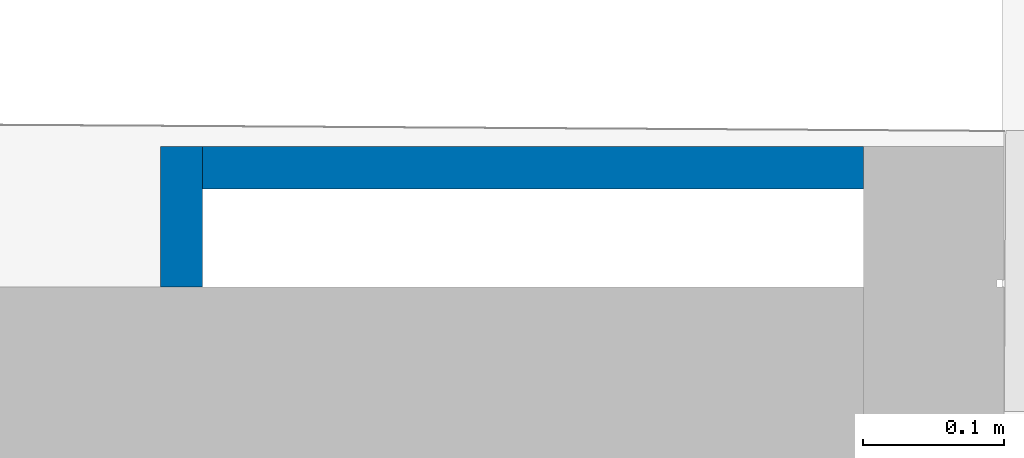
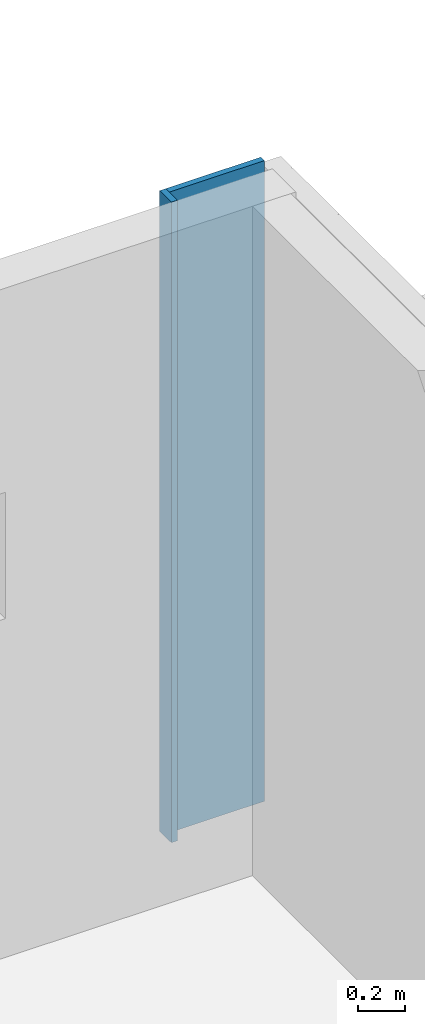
# One storey, part 38 of 77: 2 walls.
"""IFC2X3 building model written with IfcOpenShell, lengths in millimetres."""

import ifcopenshell
import ifcopenshell.guid

model = None  # the IFC model being written
_history = None  # IfcOwnerHistory: only IFC2X3 demands one
_inside = {}  # id of a spatial element -> (the spatial element, [elements in it])
_under = {}  # id of a project, library or spatial element -> (it, [spatial elements below it])
_declared = {}  # id of a project -> (the project, [libraries it declares])
_typed = {}  # id of a type object -> (the type object, [elements of that type])
_made_of = {}  # id of a material, layer set ... -> (it, [elements and type objects made of it])


def new_model(schema):
    """Start an empty IFC model of exactly this schema.

    Asked for "IFC4X3", IfcOpenShell would pick the latest addendum, in which some entities
    have other attributes; the version numbers below select the first issue.
    IFC2X3 requires an IfcOwnerHistory on every rooted entity: one is made here for all.
    """
    global model, _history
    if schema == "IFC4X3":
        model = ifcopenshell.file(schema_version=(4, 3, 0, 0))
    else:
        model = ifcopenshell.file(schema=schema)
    _inside.clear()
    _under.clear()
    _declared.clear()
    _typed.clear()
    _made_of.clear()
    _history = None
    if model.schema == "IFC2X3":
        org = make("IfcOrganization", Name="unknown")
        user = make(
            "IfcPersonAndOrganization",
            ThePerson=make("IfcPerson", FamilyName="unknown"),
            TheOrganization=org,
        )
        app = make(
            "IfcApplication",
            ApplicationDeveloper=org,
            Version="unknown",
            ApplicationFullName="unknown",
            ApplicationIdentifier="unknown",
        )
        _history = make(
            "IfcOwnerHistory",
            OwningUser=user,
            OwningApplication=app,
            ChangeAction="ADDED",
            CreationDate=0,
        )
    return model


def make(cls, **values):
    """One entity of the class cls with the attributes given. An attribute that is None is left unset."""
    return model.create_entity(
        cls, **{name: value for name, value in values.items() if value is not None}
    )


def entity(cls, *values):
    """Any entity or typed value of the class cls, its attributes in the order of the schema. None: left unset."""
    e = model.create_entity(cls)
    for i, value in enumerate(values):
        if value is not None:
            e[i] = value
    return e


def rooted(cls, **values):
    """An entity with a GlobalId (a new one), such as an element, a storey or a relation."""
    return make(cls, GlobalId=ifcopenshell.guid.new(), OwnerHistory=_history, **values)


def si_unit(unit_type, name, prefix=None):
    """IfcSIUnit, for example si_unit("LENGTHUNIT", "METRE", prefix="MILLI")."""
    return make("IfcSIUnit", UnitType=unit_type, Prefix=prefix, Name=name)


def converted_unit(unit_type, name, factor, base, dimensions=None, offset=None):
    """IfcConversionBasedUnit, such as the inch: factor (a typed value) times the base unit."""
    return make(
        "IfcConversionBasedUnit"
        if offset is None
        else "IfcConversionBasedUnitWithOffset",
        ConversionOffset=offset,
        Dimensions=None
        if dimensions is None
        else entity("IfcDimensionalExponents", *dimensions),
        UnitType=unit_type,
        Name=name,
        ConversionFactor=make(
            "IfcMeasureWithUnit", ValueComponent=factor, UnitComponent=base
        ),
    )


def derived_unit(unit_type, elements):
    """IfcDerivedUnit: a product of units, each with its exponent."""
    return make(
        "IfcDerivedUnit",
        Elements=[
            make("IfcDerivedUnitElement", Unit=unit, Exponent=power)
            for unit, power in elements
        ],
        UnitType=unit_type,
    )


def assignment(units):
    """IfcUnitAssignment: the units of a project."""
    return None if units is None else make("IfcUnitAssignment", Units=units)


def point(xyz):
    """IfcCartesianPoint."""
    return None if xyz is None else make("IfcCartesianPoint", Coordinates=xyz)


def direction(xyz):
    """IfcDirection."""
    return None if xyz is None else make("IfcDirection", DirectionRatios=xyz)


def frame(location, z_axis=None, x_axis=None):
    """IfcAxis2Placement3D, a coordinate frame: its origin and axes. An axis left out is left unset."""
    return make(
        "IfcAxis2Placement3D",
        Location=point(location),
        Axis=direction(z_axis),
        RefDirection=direction(x_axis),
    )


def frame_2d(location, x_axis=None):
    """IfcAxis2Placement2D, a coordinate frame in the plane: its origin and x axis."""
    return make(
        "IfcAxis2Placement2D", Location=point(location), RefDirection=direction(x_axis)
    )


def origin():
    """The frame at (0, 0, 0) with its axes left unset."""
    return frame((0.0, 0.0, 0.0))


def place(relative_to, where):
    """IfcLocalPlacement: puts the frame where relative to a parent placement (None: the world)."""
    return make(
        "IfcLocalPlacement", PlacementRelTo=relative_to, RelativePlacement=where
    )


def context(
    kind, dimensions, precision=None, world=None, true_north=None, identifier=None
):
    """IfcGeometricRepresentationContext, for example the 3D "Model" context."""
    return make(
        "IfcGeometricRepresentationContext",
        ContextIdentifier=identifier,
        ContextType=kind,
        CoordinateSpaceDimension=dimensions,
        Precision=precision,
        WorldCoordinateSystem=world,
        TrueNorth=true_north,
    )


def subcontext(parent, identifier, kind, view, scale=None):
    """IfcGeometricRepresentationSubContext, for example "Body" below "Model"."""
    return make(
        "IfcGeometricRepresentationSubContext",
        ContextIdentifier=identifier,
        ContextType=kind,
        ParentContext=parent,
        TargetScale=scale,
        TargetView=view,
    )


def project(units=None, contexts=None):
    """IfcProject with its units and contexts."""
    return rooted(
        "IfcProject",
        Name="project",
        RepresentationContexts=contexts,
        UnitsInContext=assignment(units),
    )


def spatial(cls, under=None, at=None, **own):
    """A site, building, storey or space (cls), placed at a placement, below another one or the project."""
    s = rooted(cls, ObjectPlacement=at, **own)
    if under is not None:
        _under.setdefault(under.id(), (under, []))[1].append(s)
    return s


def profile(cls, at=None, kind="AREA", **sizes):
    """A parametric profile (cls). Its sizes go by their IFC names, for example OverallWidth=200.0."""
    return make(cls, ProfileType=kind, Position=at, **sizes)


def rectangle(**sizes):
    """IfcRectangleProfileDef."""
    return profile("IfcRectangleProfileDef", **sizes)


def extrude(swept, where, along, depth):
    """IfcExtrudedAreaSolid: the profile swept, set in the frame where, extruded along a direction by depth."""
    return make(
        "IfcExtrudedAreaSolid",
        SweptArea=swept,
        Position=where,
        ExtrudedDirection=direction(along),
        Depth=depth,
    )


def shape(context_of_items, identifier, shape_type, items):
    """IfcShapeRepresentation: the items that make up one representation, for example the "Body"."""
    return make(
        "IfcShapeRepresentation",
        ContextOfItems=context_of_items,
        RepresentationIdentifier=identifier,
        RepresentationType=shape_type,
        Items=items,
    )


def material(Name=None, Category=None):
    """IfcMaterial."""
    return make("IfcMaterial", Name=Name, Category=Category)


def layer(
    of_material, thickness, ventilated=None, Name=None, Category=None, Priority=None
):
    """IfcMaterialLayer: one layer of a wall or slab, of a material (None: an air gap)."""
    return make(
        "IfcMaterialLayer",
        Material=of_material,
        LayerThickness=thickness,
        IsVentilated=ventilated,
        Name=Name,
        Category=Category,
        Priority=Priority,
    )


def layer_set(layers, Name=None):
    """IfcMaterialLayerSet."""
    return make("IfcMaterialLayerSet", MaterialLayers=layers, LayerSetName=Name)


def layer_usage(for_layer_set, set_direction, sense, offset, extent=None):
    """IfcMaterialLayerSetUsage: how a layer set lies in its element."""
    return make(
        "IfcMaterialLayerSetUsage",
        ForLayerSet=for_layer_set,
        LayerSetDirection=set_direction,
        DirectionSense=sense,
        OffsetFromReferenceLine=offset,
        ReferenceExtent=extent,
    )


def made_of(thing, what):
    """Note that an element or type object is made of a material, layer set ...; save() writes the relation."""
    if what is not None:
        _made_of.setdefault(what.id(), (what, []))[1].append(thing)
    return thing


def type_object(cls, material=None, **own):
    """A type object (cls), such as IfcWallType, which elements share."""
    return made_of(rooted(cls, **own), material)


def element(
    cls,
    number,
    at=None,
    inside=None,
    cuts=None,
    type_object=None,
    material=None,
    context=None,
    identifier="Body",
    shape_type=None,
    held_by="IfcProductDefinitionShape",
    body=None,
    shapes=None,
    **own,
):
    """One element of the class cls, such as IfcWall. Its Tag is "e" and its number.

    at: its placement. inside: the storey or other place that contains it. cuts: it is an
    opening in that element (IfcRelVoidsElement). A single representation is given by context,
    identifier, shape_type and body (its items); several are given by shapes. held_by: the class
    of the entity that holds the representations. save() writes the other relations.
    """
    e = rooted(cls, Tag="e%d" % number, ObjectPlacement=at, **own)
    if body is not None:
        shapes = [shape(context, identifier, shape_type, body)]
    if shapes is not None:
        e.Representation = make(held_by, Representations=shapes)
    if inside is not None:
        _inside.setdefault(inside.id(), (inside, []))[1].append(e)
    if cuts is not None:
        rooted(
            "IfcRelVoidsElement", RelatingBuildingElement=cuts, RelatedOpeningElement=e
        )
    if type_object is not None:
        _typed.setdefault(type_object.id(), (type_object, []))[1].append(e)
    return made_of(e, material)


def aggregate(whole, parts):
    """IfcRelAggregates: a whole, such as a stair, and the parts it consists of."""
    return rooted("IfcRelAggregates", RelatingObject=whole, RelatedObjects=parts)


def save(model, path):
    """Write the relations noted so far, then the file.

    IfcRelAggregates (storeys below a building ...), IfcRelContainedInSpatialStructure (elements
    in a storey), IfcRelDefinesByType, IfcRelAssociatesMaterial and IfcRelDeclares: one each for
    every whole, place, type object, material and project.
    """
    for whole, parts in _under.values():
        aggregate(whole, parts)
    for where, things in _inside.values():
        rooted(
            "IfcRelContainedInSpatialStructure",
            RelatedElements=things,
            RelatingStructure=where,
        )
    for kind, things in _typed.values():
        rooted("IfcRelDefinesByType", RelatedObjects=things, RelatingType=kind)
    for what, things in _made_of.values():
        rooted("IfcRelAssociatesMaterial", RelatedObjects=things, RelatingMaterial=what)
    for by, libraries in _declared.values():
        rooted("IfcRelDeclares", RelatingContext=by, RelatedDefinitions=libraries)
    model.write(path)


model = new_model("IFC2X3")

# Units and contexts
model_context = context("Model", 3, precision=0.01, world=origin(), true_north=direction((6.12303176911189e-17, 1.0)))
body_context = subcontext(model_context, "Body", "Model", "MODEL_VIEW")
ifc_project = project(units=[si_unit("LENGTHUNIT", "METRE", prefix="MILLI"), si_unit("AREAUNIT", "SQUARE_METRE"), si_unit("VOLUMEUNIT", "CUBIC_METRE"), converted_unit("PLANEANGLEUNIT", "DEGREE", entity("IfcRatioMeasure", 0.0174532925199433), si_unit("PLANEANGLEUNIT", "RADIAN"), dimensions=[0, 0, 0, 0, 0, 0, 0]), si_unit("MASSUNIT", "GRAM", prefix="KILO"), derived_unit("MASSDENSITYUNIT", [(si_unit("MASSUNIT", "GRAM", prefix="KILO"), 1), (si_unit("LENGTHUNIT", "METRE"), -3)]), si_unit("TIMEUNIT", "SECOND"), si_unit("FREQUENCYUNIT", "HERTZ"), si_unit("THERMODYNAMICTEMPERATUREUNIT", "DEGREE_CELSIUS"), derived_unit("THERMALTRANSMITTANCEUNIT", [(si_unit("MASSUNIT", "GRAM", prefix="KILO"), 1), (si_unit("THERMODYNAMICTEMPERATUREUNIT", "KELVIN"), -1), (si_unit("TIMEUNIT", "SECOND"), -3)]), derived_unit("VOLUMETRICFLOWRATEUNIT", [(si_unit("LENGTHUNIT", "METRE"), 3), (si_unit("TIMEUNIT", "SECOND"), -1)]), si_unit("ELECTRICCURRENTUNIT", "AMPERE"), si_unit("ELECTRICVOLTAGEUNIT", "VOLT"), si_unit("POWERUNIT", "WATT"), si_unit("FORCEUNIT", "NEWTON", prefix="KILO"), si_unit("ILLUMINANCEUNIT", "LUX"), si_unit("LUMINOUSFLUXUNIT", "LUMEN"), si_unit("LUMINOUSINTENSITYUNIT", "CANDELA"), derived_unit("USERDEFINED", [(si_unit("MASSUNIT", "GRAM", prefix="KILO"), -1), (si_unit("LENGTHUNIT", "METRE"), -2), (si_unit("TIMEUNIT", "SECOND"), 3), (si_unit("LUMINOUSFLUXUNIT", "LUMEN"), 1)]), derived_unit("LINEARVELOCITYUNIT", [(si_unit("LENGTHUNIT", "METRE"), 1), (si_unit("TIMEUNIT", "SECOND"), -1)]), si_unit("PRESSUREUNIT", "PASCAL"), derived_unit("USERDEFINED", [(si_unit("LENGTHUNIT", "METRE"), -2), (si_unit("MASSUNIT", "GRAM", prefix="KILO"), 1), (si_unit("TIMEUNIT", "SECOND"), -2)])], contexts=[model_context])

# Site, building, storey
site_placement = place(None, origin())
site = spatial("IfcSite", under=ifc_project, at=site_placement, Name="Default", CompositionType="ELEMENT")
building_placement = place(site_placement, origin())
building = spatial("IfcBuilding", under=site, at=building_placement, CompositionType="ELEMENT")
storey_placement = place(building_placement, origin())
storey = spatial("IfcBuildingStorey", under=building, at=storey_placement, Name="1. KORRUS", CompositionType="ELEMENT", Elevation=0.0)

# Walls
ifc_material_1 = material(Name="Must-al-komposiitplaat")
ifc_layer_1 = layer(ifc_material_1, 5.0)
ifc_material_2 = material(Name="Metal Stud Layer")
ifc_layer_2 = layer(ifc_material_2, 25.0)
ifc_layer_set = layer_set([ifc_layer_1, ifc_layer_2], Name="Basic Wall:komposiitplaat+karkass25")
ifc_layer_usage_1 = layer_usage(ifc_layer_set, "AXIS2", "NEGATIVE", 15.0)
wall_type = type_object("IfcWallType", Name="Basic Wall:komposiitplaat+karkass25", PredefinedType="STANDARD", material=ifc_layer_set)
wall_1_placement = place(storey_placement, frame((8814.76481329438, 40800.0994344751, 50.0), z_axis=(0.0, 0.0, 1.0), x_axis=(0.0, 1.0, 0.0)))
element("IfcWallStandardCase", 1, at=wall_1_placement, inside=storey, type_object=wall_type, material=ifc_layer_usage_1, Name="Basic Wall:komposiitplaat+karkass25", ObjectType="Basic Wall:komposiitplaat+karkass25", context=body_context, shape_type="SweptSolid", body=[
    extrude(rectangle(XDim=99.9000000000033, YDim=29.9999999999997, at=frame_2d((49.9500000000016, 0.0), x_axis=(-1.0, 0.0))), origin(), (0.0, 0.0, 1.0), 3350.0),
])
ifc_layer_usage_2 = layer_usage(ifc_layer_set, "AXIS2", "NEGATIVE", 15.0)
wall_2_placement = place(storey_placement, frame((8829.76481329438, 40884.9994344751, 50.0)))
element("IfcWallStandardCase", 2, at=wall_2_placement, inside=storey, type_object=wall_type, material=ifc_layer_usage_2, Name="Basic Wall:komposiitplaat+karkass25", ObjectType="Basic Wall:komposiitplaat+karkass25", context=body_context, shape_type="SweptSolid", body=[
    extrude(rectangle(XDim=470.000000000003, YDim=29.9999999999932, at=frame_2d((235.000000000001, 0.0), x_axis=(-1.0, 0.0))), origin(), (0.0, 0.0, 1.0), 3350.0),
])

save(model, "model.ifc")
